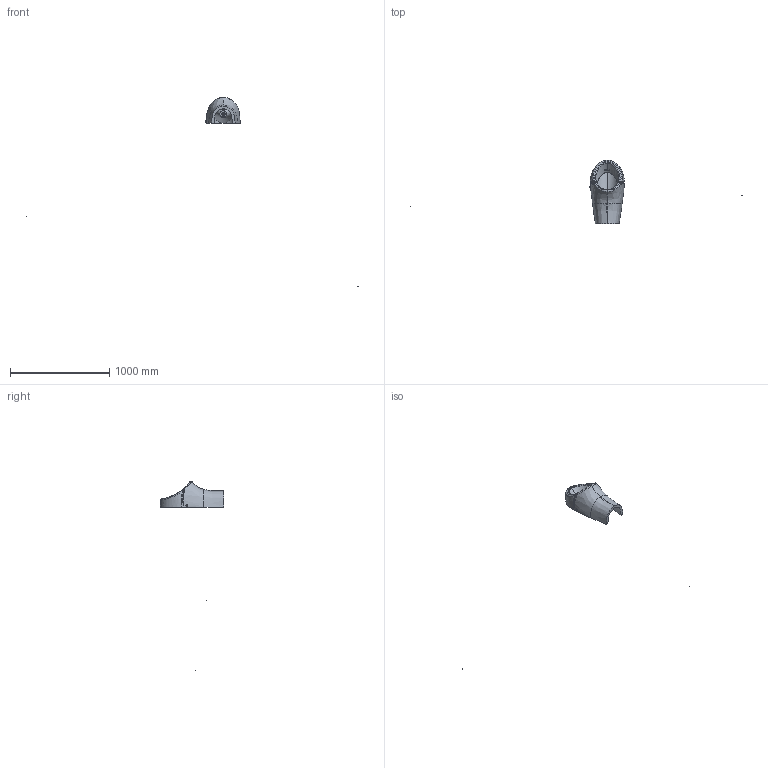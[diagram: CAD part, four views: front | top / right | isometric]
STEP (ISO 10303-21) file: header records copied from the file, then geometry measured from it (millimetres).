
FILE_DESCRIPTION (( 'STEP AP203' ), '1' );
FILE_NAME ('TP611-00CB00E-0000.STEP', '2022-04-25T10:44:58', ( '' ), ( '' ), 'SwSTEP 2.0', 'SolidWorks 2021', '' );
FILE_SCHEMA (( 'CONFIG_CONTROL_DESIGN' ));
Products named in the file (1): TP611-00CB00E-0000
Bounding box: 3342.89 x 640.17 x 1904.13 mm (x, y, z)
Volume: 8518037 mm3; surface area: 867509.9 mm2
Topology: 12 solids, 12 shells, 200 faces, 542 edges, 361 vertices
Faces by surface type: bspline 134, cylinder 35, plane 27, torus 4
Entity records: 246313 total; most frequent: CARTESIAN_POINT 242486, ORIENTED_EDGE 1070, EDGE_CURVE 535, B_SPLINE_CURVE_WITH_KNOTS 429, VERTEX_POINT 361, DIRECTION 288, EDGE_LOOP 220, ADVANCED_FACE 200
